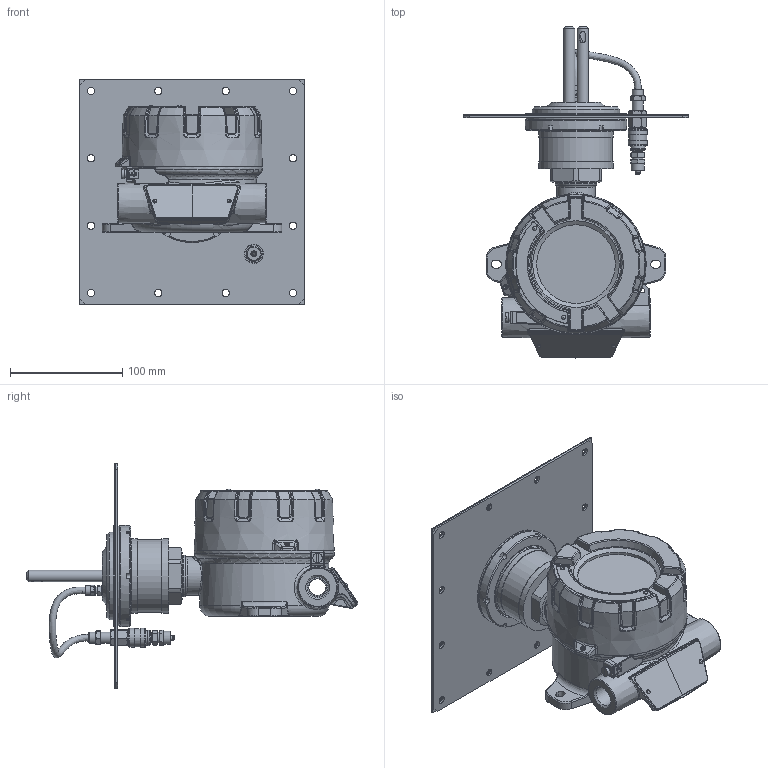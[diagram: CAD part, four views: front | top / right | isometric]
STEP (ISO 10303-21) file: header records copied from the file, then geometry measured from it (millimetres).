
FILE_DESCRIPTION(('STEP AP214'), '1');
FILE_NAME('ÄÃÑ ÝÐÈÑ-210 (êîðïóñ òèïà Á) ñ êîìïëåêòîì äëÿ ìîíòàæà â âîçäóõîâîä_3D ìîäåëü', '2026-08-20T05:58:53', ('Alexandr'), (''), 'C3D Converter', 'C3D Toolkit', '');
FILE_SCHEMA(('AUTOMOTIVE_DESIGN { 1 0 10303 214 3 1 1}'));
Length unit declared in the file: millimetre
Products named in the file (1): АПНС.413216.212
Bounding box: 200 x 295.43 x 200 mm (x, y, z)
Volume: 904075.9 mm3; surface area: 402148.8 mm2
Topology: 40 solids, 40 shells, 1800 faces, 4359 edges, 2632 vertices
Faces by surface type: plane 515, bspline 461, cylinder 429, cone 255, torus 94, sphere 40, extrusion 6
Full cylindrical faces by diameter (mm): 0.8 x3, 1.4 x9, 2 x8, 2.459 x12, 2.5 x4, 3 x4, 3.242 x2, 3.5 x2, 3.6 x4, 4 x7, 4.019 x1, 4.134 x2, 4.5 x1, 5 x3, 5.2 x1, 5.235 x1, 6 x1, 6.15 x1, 6.5 x24, 6.8 x1, 7 x1, 8 x6, 8.5 x1, 8.566 x1, 8.8 x2, 9 x2, 9.6 x1, 9.728 x2, 10 x4, 10.106 x1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
Entity records: 151726 total; most frequent: CARTESIAN_POINT 113579, ORIENTED_EDGE 7916, DIRECTION 6020, EDGE_CURVE 3958, VERTEX_POINT 2615, AXIS2_PLACEMENT_3D 2517, EDGE_LOOP 2297, ADVANCED_FACE 1800
